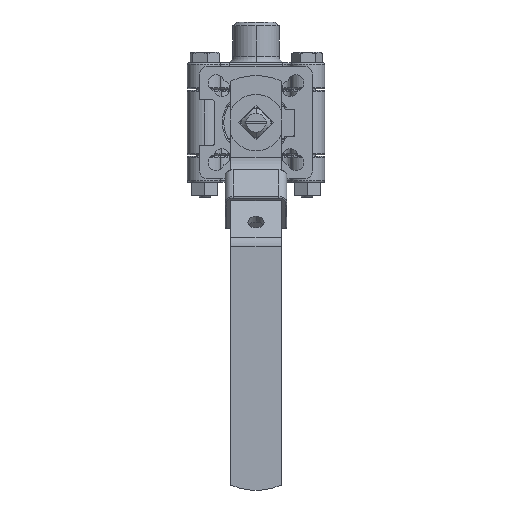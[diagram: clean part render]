
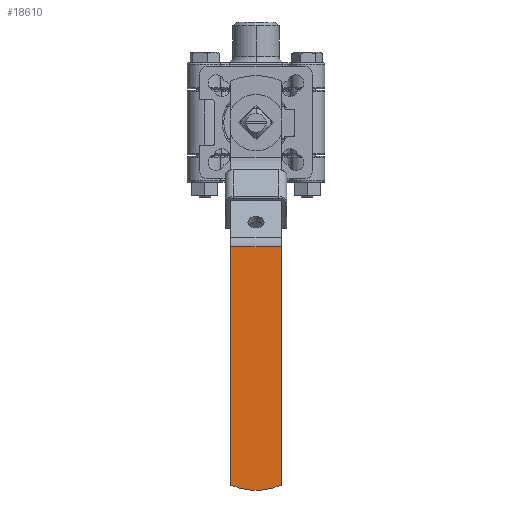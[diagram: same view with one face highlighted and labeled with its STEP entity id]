
A CAD part, left-side view. The second image highlights one B-rep face of the part: STEP entity #18610.
In plain terms, the highlighted planar face has unit normal (-1, 0, 0) as drawn and (0, 1, 0) by its records, which use the part's own axes.
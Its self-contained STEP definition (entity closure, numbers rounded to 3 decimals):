
#8048 = CARTESIAN_POINT ( 'NONE',  ( 46.328, 29.5, 9.5 ) ) ;
#8049 = CARTESIAN_POINT ( 'NONE',  ( 135.125, 29.5, 9.5 ) ) ;
#8071 = DIRECTION ( 'NONE',  ( -1., 0., 0. ) ) ;
#8072 = VECTOR ( 'NONE', #8071, 1000. ) ;
#8073 = CARTESIAN_POINT ( 'NONE',  ( 46.328, 29.5, 9.5 ) ) ;
#8074 = LINE ( 'NONE', #8073, #8072 ) ;
#8086 = CARTESIAN_POINT ( 'NONE',  ( 46.328, 29.5, -9.5 ) ) ;
#8278 = DIRECTION ( 'NONE',  ( -1., 0., 0. ) ) ;
#8279 = VECTOR ( 'NONE', #8278, 1000. ) ;
#8280 = CARTESIAN_POINT ( 'NONE',  ( 46.328, 29.5, -9.5 ) ) ;
#8281 = LINE ( 'NONE', #8280, #8279 ) ;
#8283 = CARTESIAN_POINT ( 'NONE',  ( 135.125, 29.5, -9.5 ) ) ;
#8503 = DIRECTION ( 'NONE',  ( 0., 0., -1. ) ) ;
#8504 = VECTOR ( 'NONE', #8503, 1000. ) ;
#8505 = CARTESIAN_POINT ( 'NONE',  ( 46.328, 29.5, 9.5 ) ) ;
#8511 = LINE ( 'NONE', #8505, #8504 ) ;
#8533 = DIRECTION ( 'NONE',  ( 0., 0., 1. ) ) ;
#8534 = DIRECTION ( 'NONE',  ( 0., 1., 0. ) ) ;
#8535 = CARTESIAN_POINT ( 'NONE',  ( 112., 29.5, 0. ) ) ;
#8536 = AXIS2_PLACEMENT_3D ( 'NONE', #8535, #8534, #8533 ) ;
#8537 = CIRCLE ( 'NONE', #8536, 25. ) ;
#8548 = DIRECTION ( 'NONE',  ( 0., 0., -1. ) ) ;
#8549 = DIRECTION ( 'NONE',  ( 0., -1., 0. ) ) ;
#8550 = CARTESIAN_POINT ( 'NONE',  ( 46.328, 29.5, 9.5 ) ) ;
#8551 = AXIS2_PLACEMENT_3D ( 'NONE', #8550, #8549, #8548 ) ;
#8552 = PLANE ( 'NONE',  #8551 ) ;
#8554 = FACE_OUTER_BOUND ( 'NONE', #18488, .T. ) ;
#18350 = EDGE_CURVE ( 'NONE', #18363, #18364, #8074, .T. ) ;
#18363 = VERTEX_POINT ( 'NONE', #8049 ) ;
#18364 = VERTEX_POINT ( 'NONE', #8048 ) ;
#18380 = VERTEX_POINT ( 'NONE', #8086 ) ;
#18488 = EDGE_LOOP ( 'NONE', ( #18617, #18618, #18599, #18604 ) ) ;
#18496 = VERTEX_POINT ( 'NONE', #8283 ) ;
#18499 = EDGE_CURVE ( 'NONE', #18496, #18380, #8281, .T. ) ;
#18599 = ORIENTED_EDGE ( 'NONE', *, *, #18601, .F. ) ;
#18601 = EDGE_CURVE ( 'NONE', #18364, #18380, #8511, .T. ) ;
#18604 = ORIENTED_EDGE ( 'NONE', *, *, #18350, .F. ) ;
#18610 = ADVANCED_FACE ( 'NONE', ( #8554 ), #8552, .F. ) ;
#18617 = ORIENTED_EDGE ( 'NONE', *, *, #18619, .T. ) ;
#18618 = ORIENTED_EDGE ( 'NONE', *, *, #18499, .T. ) ;
#18619 = EDGE_CURVE ( 'NONE', #18363, #18496, #8537, .T. ) ;
